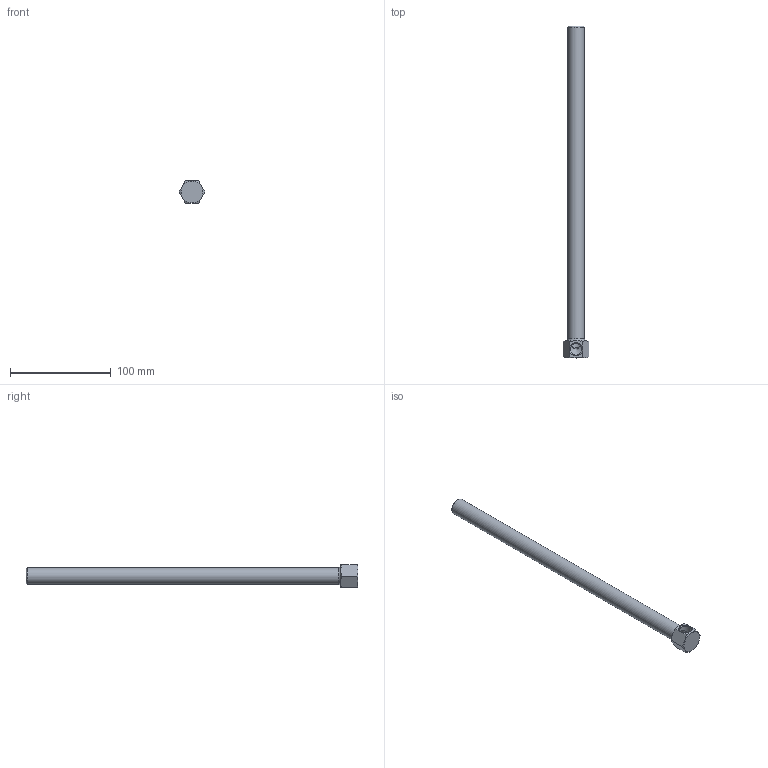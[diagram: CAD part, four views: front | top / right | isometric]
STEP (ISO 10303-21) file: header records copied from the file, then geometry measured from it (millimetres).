
FILE_DESCRIPTION(/* description */ (''),/* implementation_level */ '2;1');
FILE_NAME(/* name */ 'C:/Users/drich/Desktop/1438B-13 v1.step',/* time_stamp */ '2019-12-29T15:28:55-06:00',/* author */ (''),/* organization */ (''),/* preprocessor_version */ 'ST-DEVELOPER v18',/* originating_system */ 'Autodesk Translation Framework v8.12.0.6',/* authorisation */ '');
FILE_SCHEMA (('AUTOMOTIVE_DESIGN { 1 0 10303 214 3 1 1 }'));
Length unit declared in the file: inch
Products named in the file (1): 1438B-13
Bounding box: 25.66 x 330.2 x 22.23 mm (x, y, z)
Volume: 37718.3 mm3; surface area: 30483.4 mm2
Topology: 1 solids, 1 shells, 23 faces, 62 edges, 40 vertices
Faces by surface type: plane 10, cone 8, cylinder 4, torus 1
Full cylindrical faces by diameter (mm): 11.668 x1, 11.887 x1, 16.537 x1
Entity records: 821 total; most frequent: CARTESIAN_POINT 247, ORIENTED_EDGE 122, DIRECTION 104, EDGE_CURVE 61, AXIS2_PLACEMENT_3D 43, VERTEX_POINT 40, EDGE_LOOP 25, FACE_OUTER_BOUND 23
